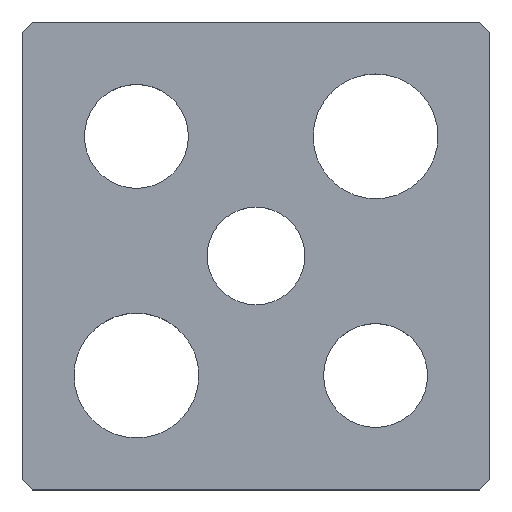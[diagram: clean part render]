
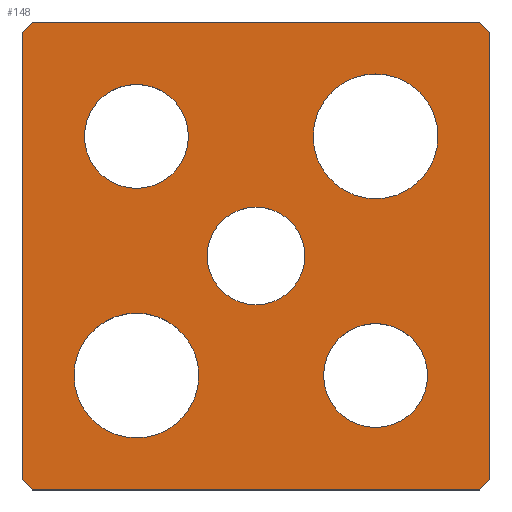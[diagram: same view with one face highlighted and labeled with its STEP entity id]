
A CAD part, top view. The second image highlights one B-rep face of the part: STEP entity #148.
In plain terms, the highlighted planar face has unit normal (0, 0, 1).
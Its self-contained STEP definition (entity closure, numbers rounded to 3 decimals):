
#117=CIRCLE('',#503,4.7);
#118=CIRCLE('',#504,4.7);
#119=CIRCLE('',#505,5.);
#120=CIRCLE('',#506,5.);
#121=CIRCLE('',#507,6.);
#122=CIRCLE('',#508,6.);
#123=CIRCLE('',#509,6.);
#124=CIRCLE('',#510,6.);
#125=CIRCLE('',#511,5.);
#126=CIRCLE('',#512,5.);
#133=FACE_BOUND('',#201,.T.);
#134=FACE_BOUND('',#202,.T.);
#135=FACE_BOUND('',#203,.T.);
#136=FACE_BOUND('',#204,.T.);
#137=FACE_BOUND('',#205,.T.);
#138=FACE_BOUND('',#206,.T.);
#148=ADVANCED_FACE('',(#133,#134,#135,#136,#137,#138),#168,.T.);
#168=PLANE('',#513);
#201=EDGE_LOOP('',(#267,#268,#269,#270,#271,#272,#273,#274));
#202=EDGE_LOOP('',(#275,#276));
#203=EDGE_LOOP('',(#277,#278));
#204=EDGE_LOOP('',(#279,#280));
#205=EDGE_LOOP('',(#281,#282));
#206=EDGE_LOOP('',(#283,#284));
#267=ORIENTED_EDGE('',*,*,#362,.T.);
#268=ORIENTED_EDGE('',*,*,#366,.T.);
#269=ORIENTED_EDGE('',*,*,#369,.T.);
#270=ORIENTED_EDGE('',*,*,#372,.T.);
#271=ORIENTED_EDGE('',*,*,#375,.T.);
#272=ORIENTED_EDGE('',*,*,#378,.T.);
#273=ORIENTED_EDGE('',*,*,#381,.T.);
#274=ORIENTED_EDGE('',*,*,#384,.T.);
#275=ORIENTED_EDGE('',*,*,#395,.T.);
#276=ORIENTED_EDGE('',*,*,#396,.T.);
#277=ORIENTED_EDGE('',*,*,#397,.T.);
#278=ORIENTED_EDGE('',*,*,#398,.T.);
#279=ORIENTED_EDGE('',*,*,#399,.T.);
#280=ORIENTED_EDGE('',*,*,#400,.T.);
#281=ORIENTED_EDGE('',*,*,#401,.T.);
#282=ORIENTED_EDGE('',*,*,#402,.T.);
#283=ORIENTED_EDGE('',*,*,#403,.T.);
#284=ORIENTED_EDGE('',*,*,#404,.T.);
#326=VERTEX_POINT('',#643);
#327=VERTEX_POINT('',#645);
#330=VERTEX_POINT('',#652);
#332=VERTEX_POINT('',#658);
#334=VERTEX_POINT('',#664);
#336=VERTEX_POINT('',#670);
#338=VERTEX_POINT('',#676);
#340=VERTEX_POINT('',#682);
#351=VERTEX_POINT('',#711);
#352=VERTEX_POINT('',#712);
#353=VERTEX_POINT('',#715);
#354=VERTEX_POINT('',#716);
#355=VERTEX_POINT('',#719);
#356=VERTEX_POINT('',#720);
#357=VERTEX_POINT('',#723);
#358=VERTEX_POINT('',#724);
#359=VERTEX_POINT('',#727);
#360=VERTEX_POINT('',#728);
#362=EDGE_CURVE('',#327,#326,#416,.T.);
#366=EDGE_CURVE('',#326,#330,#420,.T.);
#369=EDGE_CURVE('',#330,#332,#423,.T.);
#372=EDGE_CURVE('',#332,#334,#426,.T.);
#375=EDGE_CURVE('',#334,#336,#429,.T.);
#378=EDGE_CURVE('',#336,#338,#432,.T.);
#381=EDGE_CURVE('',#338,#340,#435,.T.);
#384=EDGE_CURVE('',#340,#327,#438,.T.);
#395=EDGE_CURVE('',#351,#352,#117,.T.);
#396=EDGE_CURVE('',#352,#351,#118,.T.);
#397=EDGE_CURVE('',#353,#354,#119,.T.);
#398=EDGE_CURVE('',#354,#353,#120,.T.);
#399=EDGE_CURVE('',#355,#356,#121,.T.);
#400=EDGE_CURVE('',#356,#355,#122,.T.);
#401=EDGE_CURVE('',#357,#358,#123,.T.);
#402=EDGE_CURVE('',#358,#357,#124,.T.);
#403=EDGE_CURVE('',#359,#360,#125,.T.);
#404=EDGE_CURVE('',#360,#359,#126,.T.);
#416=LINE('',#644,#450);
#420=LINE('',#653,#454);
#423=LINE('',#659,#457);
#426=LINE('',#665,#460);
#429=LINE('',#671,#463);
#432=LINE('',#677,#466);
#435=LINE('',#683,#469);
#438=LINE('',#687,#472);
#450=VECTOR('',#527,1.);
#454=VECTOR('',#533,1.);
#457=VECTOR('',#538,1.);
#460=VECTOR('',#543,1.);
#463=VECTOR('',#548,1.);
#466=VECTOR('',#553,1.);
#469=VECTOR('',#558,1.);
#472=VECTOR('',#563,1.);
#503=AXIS2_PLACEMENT_3D('',#710,#588,#589);
#504=AXIS2_PLACEMENT_3D('',#713,#590,#591);
#505=AXIS2_PLACEMENT_3D('',#714,#592,#593);
#506=AXIS2_PLACEMENT_3D('',#717,#594,#595);
#507=AXIS2_PLACEMENT_3D('',#718,#596,#597);
#508=AXIS2_PLACEMENT_3D('',#721,#598,#599);
#509=AXIS2_PLACEMENT_3D('',#722,#600,#601);
#510=AXIS2_PLACEMENT_3D('',#725,#602,#603);
#511=AXIS2_PLACEMENT_3D('',#726,#604,#605);
#512=AXIS2_PLACEMENT_3D('',#729,#606,#607);
#513=AXIS2_PLACEMENT_3D('',#730,#608,#609);
#527=DIRECTION('',(0.707,-0.707,0.));
#533=DIRECTION('',(1.,0.,0.));
#538=DIRECTION('',(0.707,0.707,0.));
#543=DIRECTION('',(0.,1.,0.));
#548=DIRECTION('',(-0.707,0.707,0.));
#553=DIRECTION('',(-1.,0.,0.));
#558=DIRECTION('',(-0.707,-0.707,0.));
#563=DIRECTION('',(0.,-1.,0.));
#588=DIRECTION('',(0.,0.,-1.));
#589=DIRECTION('',(-1.,0.,0.));
#590=DIRECTION('',(0.,0.,-1.));
#591=DIRECTION('',(1.,0.,0.));
#592=DIRECTION('',(0.,0.,-1.));
#593=DIRECTION('',(-1.,0.,0.));
#594=DIRECTION('',(0.,0.,-1.));
#595=DIRECTION('',(1.,0.,0.));
#596=DIRECTION('',(0.,0.,-1.));
#597=DIRECTION('',(-1.,0.,0.));
#598=DIRECTION('',(0.,0.,-1.));
#599=DIRECTION('',(1.,0.,0.));
#600=DIRECTION('',(0.,0.,-1.));
#601=DIRECTION('',(-1.,0.,0.));
#602=DIRECTION('',(0.,0.,-1.));
#603=DIRECTION('',(1.,0.,0.));
#604=DIRECTION('',(0.,0.,-1.));
#605=DIRECTION('',(-1.,0.,0.));
#606=DIRECTION('',(0.,0.,-1.));
#607=DIRECTION('',(1.,0.,0.));
#608=DIRECTION('',(0.,0.,1.));
#609=DIRECTION('',(0.,-1.,0.));
#643=CARTESIAN_POINT('',(-21.5,-22.5,5.));
#644=CARTESIAN_POINT('',(-22.5,-21.5,5.));
#645=CARTESIAN_POINT('',(-22.5,-21.5,5.));
#652=CARTESIAN_POINT('',(21.5,-22.5,5.));
#653=CARTESIAN_POINT('',(-21.5,-22.5,5.));
#658=CARTESIAN_POINT('',(22.5,-21.5,5.));
#659=CARTESIAN_POINT('',(22.5,-21.5,5.));
#664=CARTESIAN_POINT('',(22.5,21.5,5.));
#665=CARTESIAN_POINT('',(22.5,21.5,5.));
#670=CARTESIAN_POINT('',(21.5,22.5,5.));
#671=CARTESIAN_POINT('',(21.5,22.5,5.));
#676=CARTESIAN_POINT('',(-21.5,22.5,5.));
#677=CARTESIAN_POINT('',(-21.5,22.5,5.));
#682=CARTESIAN_POINT('',(-22.5,21.5,5.));
#683=CARTESIAN_POINT('',(-22.5,21.5,5.));
#687=CARTESIAN_POINT('',(-22.5,21.5,5.));
#710=CARTESIAN_POINT('',(0.,0.,5.));
#711=CARTESIAN_POINT('',(0.,4.7,5.));
#712=CARTESIAN_POINT('',(0.,-4.7,5.));
#713=CARTESIAN_POINT('',(0.,0.,5.));
#714=CARTESIAN_POINT('',(-11.5,11.5,5.));
#715=CARTESIAN_POINT('',(-11.5,16.5,5.));
#716=CARTESIAN_POINT('',(-11.5,6.5,5.));
#717=CARTESIAN_POINT('',(-11.5,11.5,5.));
#718=CARTESIAN_POINT('',(11.5,11.5,5.));
#719=CARTESIAN_POINT('',(11.5,17.5,5.));
#720=CARTESIAN_POINT('',(11.5,5.5,5.));
#721=CARTESIAN_POINT('',(11.5,11.5,5.));
#722=CARTESIAN_POINT('',(-11.5,-11.5,5.));
#723=CARTESIAN_POINT('',(-11.5,-5.5,5.));
#724=CARTESIAN_POINT('',(-11.5,-17.5,5.));
#725=CARTESIAN_POINT('',(-11.5,-11.5,5.));
#726=CARTESIAN_POINT('',(11.5,-11.5,5.));
#727=CARTESIAN_POINT('',(11.5,-6.5,5.));
#728=CARTESIAN_POINT('',(11.5,-16.5,5.));
#729=CARTESIAN_POINT('',(11.5,-11.5,5.));
#730=CARTESIAN_POINT('',(-22.5,-21.5,5.));
